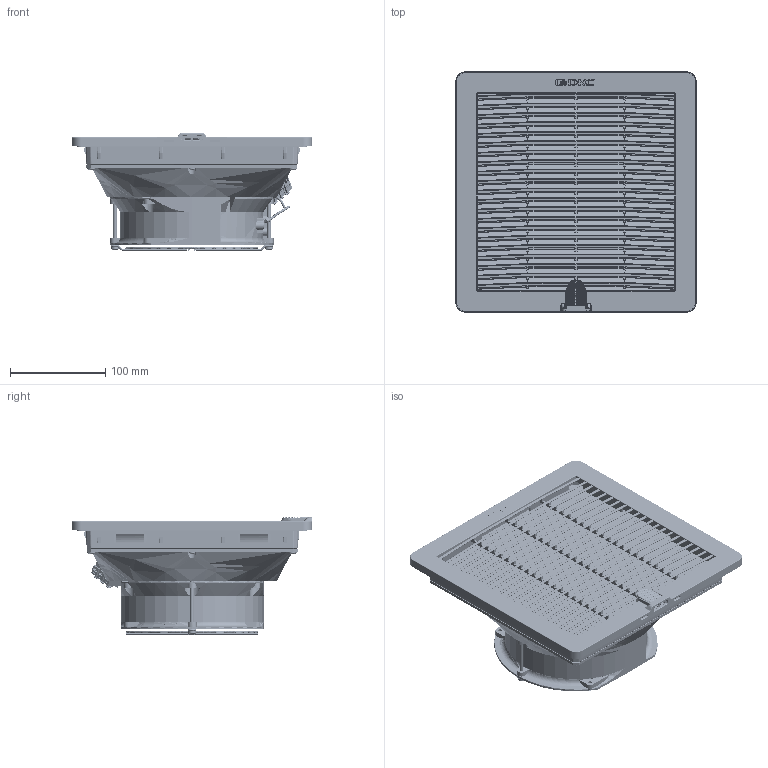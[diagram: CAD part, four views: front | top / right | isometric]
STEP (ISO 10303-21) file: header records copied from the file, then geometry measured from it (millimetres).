
FILE_DESCRIPTION (( 'STEP AP203' ), '1' );
FILE_NAME ('TPA.08.0021.00.00.0捘.STEP', '2022-06-30T12:11:33', ( '' ), ( '' ), 'SwSTEP 2.0', 'SolidWorks 2020', '' );
FILE_SCHEMA (( 'CONFIG_CONTROL_DESIGN' ));
Length unit declared in the file: millimetre
Products named in the file (19): RKF15 - BASE REV; çàçåìëåíèå ñ ïðîâîäîì; 4 DIN 6798 Zinc; TPA.08.0021.03.00.0_ Default; RKF15 - GASKET REV.3; Êîëîäêà LK 980 RZ3; 3,5x13 DIN 7981 C PZ Zinc_straight; ìåòàë. ÷àñòü çàçåìëåíèÿ; Âòóëêà ðåçüáîâàÿ FL B Ì4; TPA.08.0021.00.00.0捘; TPA.08.0015.03.00.0_220x220; Ðåøåòêà äëÿ âåíò EBM 09498-2-4039; TPA.08.0021.01.02.0; M4x65 DIN 7985 PH cl.4,8 Zinc_straight; TPA.08.0015.01.01.0; Âåíòèëÿòîð 9295414327 ebmpapst; ïðîâîä çàçåìëåíèÿ; TPA.08.0021.02.00.0; TPA.08.0015.01.03.0
Assembly tree (28 placements, depth 3):
  TPA.08.0021.00.00.0捘
    TPA.08.0021.02.00.0
      RKF15 - GASKET REV.3
      RKF15 - BASE REV
    TPA.08.0021.01.02.0
    TPA.08.0015.03.00.0_220x220
    TPA.08.0021.03.00.0_ Default
    Êîëîäêà LK 980 RZ3
    TPA.08.0015.01.03.0
    TPA.08.0015.01.01.0
    M4x65 DIN 7985 PH cl.4,8 Zinc_straight  x2
    Ðåøåòêà äëÿ âåíò EBM 09498-2-4039
    çàçåìëåíèå ñ ïðîâîäîì
      ìåòàë. ÷àñòü çàçåìëåíèÿ
      ïðîâîä çàçåìëåíèÿ
    4 DIN 6798 Zinc  x2
    3,5x13 DIN 7981 C PZ Zinc_straight  x8
    Âòóëêà ðåçüáîâàÿ FL B Ì4  x2
    Âåíòèëÿòîð 9295414327 ebmpapst
Bounding box: 252 x 252 x 123.17 mm (x, y, z)
Volume: 1164692.5 mm3; surface area: 726019.8 mm2
Topology: 45 solids, 45 shells, 7639 faces, 20987 edges, 13321 vertices
Faces by surface type: plane 3604, cylinder 2370, bspline 776, torus 462, cone 401, sphere 26
Entity records: 332309 total; most frequent: CARTESIAN_POINT 163584, ORIENTED_EDGE 40370, DIRECTION 25690, EDGE_CURVE 20185, VERTEX_POINT 12863, B_SPLINE_CURVE_WITH_KNOTS 9606, AXIS2_PLACEMENT_3D 8719, LINE 8252
